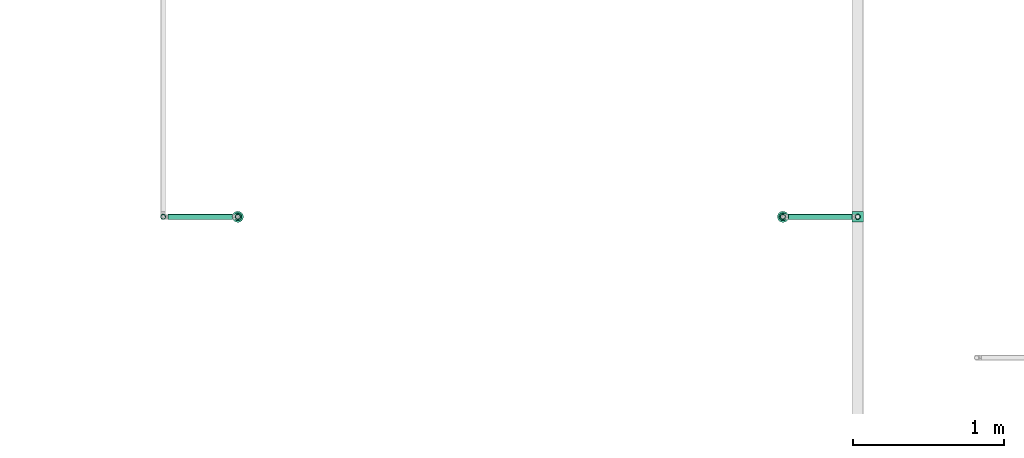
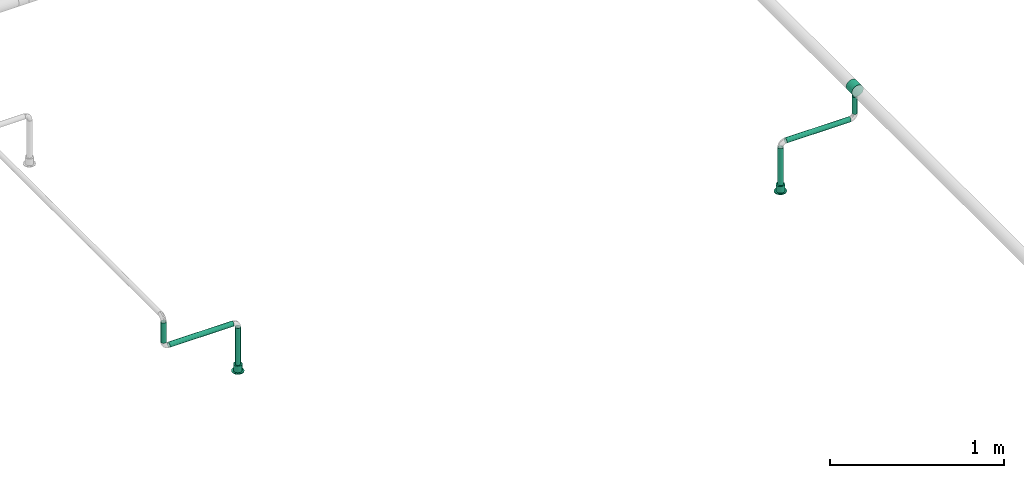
# One storey, part 33 of 95: 6 flow segments, 2 flow terminals, 1 flow fitting.
"""IFC2X3 building model written with IfcOpenShell, lengths in millimetres."""

import ifcopenshell
import ifcopenshell.guid

model = None  # the IFC model being written
_history = None  # IfcOwnerHistory: only IFC2X3 demands one
_inside = {}  # id of a spatial element -> (the spatial element, [elements in it])
_under = {}  # id of a project, library or spatial element -> (it, [spatial elements below it])
_declared = {}  # id of a project -> (the project, [libraries it declares])
_typed = {}  # id of a type object -> (the type object, [elements of that type])
_made_of = {}  # id of a material, layer set ... -> (it, [elements and type objects made of it])


def new_model(schema):
    """Start an empty IFC model of exactly this schema.

    Asked for "IFC4X3", IfcOpenShell would pick the latest addendum, in which some entities
    have other attributes; the version numbers below select the first issue.
    IFC2X3 requires an IfcOwnerHistory on every rooted entity: one is made here for all.
    """
    global model, _history
    if schema == "IFC4X3":
        model = ifcopenshell.file(schema_version=(4, 3, 0, 0))
    else:
        model = ifcopenshell.file(schema=schema)
    _inside.clear()
    _under.clear()
    _declared.clear()
    _typed.clear()
    _made_of.clear()
    _history = None
    if model.schema == "IFC2X3":
        org = make("IfcOrganization", Name="unknown")
        user = make(
            "IfcPersonAndOrganization",
            ThePerson=make("IfcPerson", FamilyName="unknown"),
            TheOrganization=org,
        )
        app = make(
            "IfcApplication",
            ApplicationDeveloper=org,
            Version="unknown",
            ApplicationFullName="unknown",
            ApplicationIdentifier="unknown",
        )
        _history = make(
            "IfcOwnerHistory",
            OwningUser=user,
            OwningApplication=app,
            ChangeAction="ADDED",
            CreationDate=0,
        )
    return model


def make(cls, **values):
    """One entity of the class cls with the attributes given. An attribute that is None is left unset."""
    return model.create_entity(
        cls, **{name: value for name, value in values.items() if value is not None}
    )


def entity(cls, *values):
    """Any entity or typed value of the class cls, its attributes in the order of the schema. None: left unset."""
    e = model.create_entity(cls)
    for i, value in enumerate(values):
        if value is not None:
            e[i] = value
    return e


def rooted(cls, **values):
    """An entity with a GlobalId (a new one), such as an element, a storey or a relation."""
    return make(cls, GlobalId=ifcopenshell.guid.new(), OwnerHistory=_history, **values)


def si_unit(unit_type, name, prefix=None):
    """IfcSIUnit, for example si_unit("LENGTHUNIT", "METRE", prefix="MILLI")."""
    return make("IfcSIUnit", UnitType=unit_type, Prefix=prefix, Name=name)


def converted_unit(unit_type, name, factor, base, dimensions=None, offset=None):
    """IfcConversionBasedUnit, such as the inch: factor (a typed value) times the base unit."""
    return make(
        "IfcConversionBasedUnit"
        if offset is None
        else "IfcConversionBasedUnitWithOffset",
        ConversionOffset=offset,
        Dimensions=None
        if dimensions is None
        else entity("IfcDimensionalExponents", *dimensions),
        UnitType=unit_type,
        Name=name,
        ConversionFactor=make(
            "IfcMeasureWithUnit", ValueComponent=factor, UnitComponent=base
        ),
    )


def derived_unit(unit_type, elements):
    """IfcDerivedUnit: a product of units, each with its exponent."""
    return make(
        "IfcDerivedUnit",
        Elements=[
            make("IfcDerivedUnitElement", Unit=unit, Exponent=power)
            for unit, power in elements
        ],
        UnitType=unit_type,
    )


def assignment(units):
    """IfcUnitAssignment: the units of a project."""
    return None if units is None else make("IfcUnitAssignment", Units=units)


def point(xyz):
    """IfcCartesianPoint."""
    return None if xyz is None else make("IfcCartesianPoint", Coordinates=xyz)


def direction(xyz):
    """IfcDirection."""
    return None if xyz is None else make("IfcDirection", DirectionRatios=xyz)


def frame(location, z_axis=None, x_axis=None):
    """IfcAxis2Placement3D, a coordinate frame: its origin and axes. An axis left out is left unset."""
    return make(
        "IfcAxis2Placement3D",
        Location=point(location),
        Axis=direction(z_axis),
        RefDirection=direction(x_axis),
    )


def frame_2d(location, x_axis=None):
    """IfcAxis2Placement2D, a coordinate frame in the plane: its origin and x axis."""
    return make(
        "IfcAxis2Placement2D", Location=point(location), RefDirection=direction(x_axis)
    )


def origin_with_axes():
    """The frame at (0, 0, 0) with the z axis (0, 0, 1) and the x axis (1, 0, 0) written out."""
    return frame((0.0, 0.0, 0.0), z_axis=(0.0, 0.0, 1.0), x_axis=(1.0, 0.0, 0.0))


def origin_2d_with_axis():
    """The frame at (0, 0) in the plane with the x axis (1, 0) written out."""
    return frame_2d((0.0, 0.0), x_axis=(1.0, 0.0))


def place(relative_to, where):
    """IfcLocalPlacement: puts the frame where relative to a parent placement (None: the world)."""
    return make(
        "IfcLocalPlacement", PlacementRelTo=relative_to, RelativePlacement=where
    )


def context(
    kind, dimensions, precision=None, world=None, true_north=None, identifier=None
):
    """IfcGeometricRepresentationContext, for example the 3D "Model" context."""
    return make(
        "IfcGeometricRepresentationContext",
        ContextIdentifier=identifier,
        ContextType=kind,
        CoordinateSpaceDimension=dimensions,
        Precision=precision,
        WorldCoordinateSystem=world,
        TrueNorth=true_north,
    )


def subcontext(parent, identifier, kind, view, scale=None):
    """IfcGeometricRepresentationSubContext, for example "Body" below "Model"."""
    return make(
        "IfcGeometricRepresentationSubContext",
        ContextIdentifier=identifier,
        ContextType=kind,
        ParentContext=parent,
        TargetScale=scale,
        TargetView=view,
    )


def project(units=None, contexts=None):
    """IfcProject with its units and contexts."""
    return rooted(
        "IfcProject",
        Name="project",
        RepresentationContexts=contexts,
        UnitsInContext=assignment(units),
    )


def spatial(cls, under=None, at=None, **own):
    """A site, building, storey or space (cls), placed at a placement, below another one or the project."""
    s = rooted(cls, ObjectPlacement=at, **own)
    if under is not None:
        _under.setdefault(under.id(), (under, []))[1].append(s)
    return s


def profile(cls, at=None, kind="AREA", **sizes):
    """A parametric profile (cls). Its sizes go by their IFC names, for example OverallWidth=200.0."""
    return make(cls, ProfileType=kind, Position=at, **sizes)


def hollow_circle(**sizes):
    """IfcCircleHollowProfileDef."""
    return profile("IfcCircleHollowProfileDef", **sizes)


def extrude(swept, where, along, depth):
    """IfcExtrudedAreaSolid: the profile swept, set in the frame where, extruded along a direction by depth."""
    return make(
        "IfcExtrudedAreaSolid",
        SweptArea=swept,
        Position=where,
        ExtrudedDirection=direction(along),
        Depth=depth,
    )


def faces_of(points, faces, orient=None, outer=None):
    """IfcFace entities. A face is a list of loops; a loop is a list of indices into points, from 0.

    orient and outer hold one flag for each loop. By default every Orientation is true, the
    first loop of a face is its IfcFaceOuterBound and the others are IfcFaceBound.
    """
    made = []
    for i, loops in enumerate(faces):
        bounds = []
        for j, loop in enumerate(loops):
            is_outer = j == 0 if outer is None else outer[i][j]
            bounds.append(
                make(
                    "IfcFaceOuterBound" if is_outer else "IfcFaceBound",
                    Bound=make("IfcPolyLoop", Polygon=[points[k] for k in loop]),
                    Orientation=True if orient is None else orient[i][j],
                )
            )
        made.append(make("IfcFace", Bounds=bounds))
    return made


def open_shell(faces, orient=None, outer=None):
    """The faces of one IfcOpenShell. surface_model builds it on its shared points."""
    return ("IfcOpenShell", faces, orient, outer)


def surface_model(cls, points, shells):
    """IfcFaceBasedSurfaceModel or IfcShellBasedSurfaceModel (cls): surfaces that need not close."""
    shared = [point(p) for p in points]
    made = [make(c, CfsFaces=faces_of(shared, fs, o, b)) for c, fs, o, b in shells]
    if cls == "IfcFaceBasedSurfaceModel":
        return make(cls, FbsmFaces=made)
    return make(cls, SbsmBoundary=made)


def shape(context_of_items, identifier, shape_type, items):
    """IfcShapeRepresentation: the items that make up one representation, for example the "Body"."""
    return make(
        "IfcShapeRepresentation",
        ContextOfItems=context_of_items,
        RepresentationIdentifier=identifier,
        RepresentationType=shape_type,
        Items=items,
    )


def source(mapping_origin, context_of_items, identifier, shape_type, items):
    """IfcRepresentationMap: a shape defined once, which mapped items show again and again."""
    return make(
        "IfcRepresentationMap",
        MappingOrigin=mapping_origin,
        MappedRepresentation=shape(context_of_items, identifier, shape_type, items),
    )


def transform(
    local_origin,
    x_axis=None,
    y_axis=None,
    z_axis=None,
    scale=None,
    scale2=None,
    scale3=None,
    uniform=True,
):
    """IfcCartesianTransformationOperator3D, or its non-uniform kind. x_axis, y_axis, z_axis: its Axis1, 2, 3."""
    if uniform:
        return make(
            "IfcCartesianTransformationOperator3D",
            Axis1=direction(x_axis),
            Axis2=direction(y_axis),
            LocalOrigin=point(local_origin),
            Scale=scale,
            Axis3=direction(z_axis),
        )
    return make(
        "IfcCartesianTransformationOperator3DnonUniform",
        Axis1=direction(x_axis),
        Axis2=direction(y_axis),
        LocalOrigin=point(local_origin),
        Scale=scale,
        Axis3=direction(z_axis),
        Scale2=scale2,
        Scale3=scale3,
    )


def mapped(mapping_source, mapping_target):
    """IfcMappedItem: shows the shape of a source again, moved by a transform."""
    return make(
        "IfcMappedItem", MappingSource=mapping_source, MappingTarget=mapping_target
    )


def made_of(thing, what):
    """Note that an element or type object is made of a material, layer set ...; save() writes the relation."""
    if what is not None:
        _made_of.setdefault(what.id(), (what, []))[1].append(thing)
    return thing


def type_object(cls, material=None, **own):
    """A type object (cls), such as IfcWallType, which elements share."""
    return made_of(rooted(cls, **own), material)


def element(
    cls,
    number,
    at=None,
    inside=None,
    cuts=None,
    type_object=None,
    material=None,
    context=None,
    identifier="Body",
    shape_type=None,
    held_by="IfcProductDefinitionShape",
    body=None,
    shapes=None,
    **own,
):
    """One element of the class cls, such as IfcWall. Its Tag is "e" and its number.

    at: its placement. inside: the storey or other place that contains it. cuts: it is an
    opening in that element (IfcRelVoidsElement). A single representation is given by context,
    identifier, shape_type and body (its items); several are given by shapes. held_by: the class
    of the entity that holds the representations. save() writes the other relations.
    """
    e = rooted(cls, Tag="e%d" % number, ObjectPlacement=at, **own)
    if body is not None:
        shapes = [shape(context, identifier, shape_type, body)]
    if shapes is not None:
        e.Representation = make(held_by, Representations=shapes)
    if inside is not None:
        _inside.setdefault(inside.id(), (inside, []))[1].append(e)
    if cuts is not None:
        rooted(
            "IfcRelVoidsElement", RelatingBuildingElement=cuts, RelatedOpeningElement=e
        )
    if type_object is not None:
        _typed.setdefault(type_object.id(), (type_object, []))[1].append(e)
    return made_of(e, material)


def aggregate(whole, parts):
    """IfcRelAggregates: a whole, such as a stair, and the parts it consists of."""
    return rooted("IfcRelAggregates", RelatingObject=whole, RelatedObjects=parts)


def save(model, path):
    """Write the relations noted so far, then the file.

    IfcRelAggregates (storeys below a building ...), IfcRelContainedInSpatialStructure (elements
    in a storey), IfcRelDefinesByType, IfcRelAssociatesMaterial and IfcRelDeclares: one each for
    every whole, place, type object, material and project.
    """
    for whole, parts in _under.values():
        aggregate(whole, parts)
    for where, things in _inside.values():
        rooted(
            "IfcRelContainedInSpatialStructure",
            RelatedElements=things,
            RelatingStructure=where,
        )
    for kind, things in _typed.values():
        rooted("IfcRelDefinesByType", RelatedObjects=things, RelatingType=kind)
    for what, things in _made_of.values():
        rooted("IfcRelAssociatesMaterial", RelatedObjects=things, RelatingMaterial=what)
    for by, libraries in _declared.values():
        rooted("IfcRelDeclares", RelatingContext=by, RelatedDefinitions=libraries)
    model.write(path)


model = new_model("IFC2X3")

# Units and contexts
model_context = context("Model", 3, precision=0.01, world=frame((0.0, 4.29681676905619e-09, 0.0)), true_north=direction((4.01073788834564e-13, 1.0)))
plan_context = context("Plan", 3, precision=0.01, world=frame((0.0, 4.29681676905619e-09, 0.0)), true_north=direction((4.01073788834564e-13, 1.0)))
body_context = subcontext(model_context, "Body", "Model", "MODEL_VIEW")
ifc_project = project(units=[converted_unit("PLANEANGLEUNIT", "DEGREE", entity("IfcPositiveLengthMeasure", 0.0174532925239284), si_unit("PLANEANGLEUNIT", "RADIAN"), dimensions=[0, 0, 0, 0, 0, 0, 0]), si_unit("AREAUNIT", "SQUARE_METRE"), si_unit("LENGTHUNIT", "METRE", prefix="MILLI"), si_unit("MASSUNIT", "GRAM", prefix="KILO"), si_unit("POWERUNIT", "WATT"), si_unit("PRESSUREUNIT", "PASCAL"), si_unit("FORCEUNIT", "NEWTON", prefix="KILO"), si_unit("ELECTRICVOLTAGEUNIT", "VOLT"), si_unit("ELECTRICCURRENTUNIT", "AMPERE"), si_unit("THERMODYNAMICTEMPERATUREUNIT", "DEGREE_CELSIUS"), si_unit("TIMEUNIT", "SECOND"), si_unit("VOLUMEUNIT", "CUBIC_METRE"), derived_unit("LINEARVELOCITYUNIT", [(si_unit("LENGTHUNIT", "METRE"), 1), (si_unit("TIMEUNIT", "SECOND"), -1)]), derived_unit("VOLUMETRICFLOWRATEUNIT", [(si_unit("VOLUMEUNIT", "CUBIC_METRE"), 1), (si_unit("TIMEUNIT", "SECOND"), -1)]), derived_unit("THERMALTRANSMITTANCEUNIT", [(si_unit("POWERUNIT", "WATT"), 1), (si_unit("THERMODYNAMICTEMPERATUREUNIT", "KELVIN"), -1), (si_unit("AREAUNIT", "SQUARE_METRE"), -1)]), derived_unit("SOUNDPRESSUREUNIT", [(si_unit("PRESSUREUNIT", "PASCAL"), 1)])], contexts=[model_context, plan_context])

# Site, building, storey
site_placement = place(None, frame((0.0, -4.29681676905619e-09, 0.0), z_axis=(0.0, 0.0, 1.0), x_axis=(1.0, 0.0, 0.0)))
site = spatial("IfcSite", under=ifc_project, at=site_placement, CompositionType="ELEMENT")
building_placement = place(site_placement, frame((0.0, 4.29681676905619e-09, 0.0), z_axis=(0.0, 0.0, 1.0), x_axis=(1.0, 0.0, 0.0)))
building = spatial("IfcBuilding", under=site, at=building_placement, Name="mc-building", CompositionType="ELEMENT")
storey_placement = place(building_placement, frame((0.0, 0.0, 210900.0), z_axis=(0.0, 0.0, 1.0), x_axis=(1.0, 0.0, 0.0)))
storey = spatial("IfcBuildingStorey", under=building, at=storey_placement, Name="Nivå F", CompositionType="ELEMENT", Elevation=210900.0)

# Flow fitting
pipe_fitting_type = type_object("IfcPipeFittingType", Name="magi_pipe_fe_tee_centric_90_NOR", PredefinedType="JUNCTION")
shared_shape_1 = source(origin_with_axes(), body_context, "Body", "SurfaceModel", [
    surface_model("IfcShellBasedSurfaceModel", [(-33.8, 9.86101, -36.80177), (-33.8, 0.0, -38.1), (-33.8, 36.80177, -9.86101), (-33.8, 19.05, -32.99557), (-33.8, 32.99557, -19.05), (-33.8, 26.94077, -26.94077), (-33.8, -38.1, 0.0), (-33.8, -19.05, -32.99557), (-33.8, -26.94077, -26.94077), (-33.8, -9.86101, -36.80177), (-33.8, -32.99557, -19.05), (-33.8, -36.80177, -9.86101), (-33.8, 38.1, 0.0), (-33.8, 32.99557, 19.05), (-33.8, 36.80177, 9.86101), (-33.8, -36.80177, 9.86101), (-33.8, 19.05, 32.99557), (-33.8, 26.94077, 26.94077), (-33.8, 9.86101, 36.80177), (-33.8, 0.0, 38.1), (-33.8, -26.94077, 26.94077), (-33.8, -32.99557, 19.05), (-33.8, -9.86101, 36.80177), (-33.8, -19.05, 32.99557), (33.8, 0.0, -38.1), (33.8, 9.86101, -36.80177), (33.8, 19.05, -32.99557), (33.8, 26.94077, -26.94077), (33.8, 32.99557, -19.05), (33.8, 36.80177, -9.86101), (33.8, -38.1, 0.0), (33.8, -9.86101, -36.80177), (33.8, -26.94077, -26.94077), (33.8, -19.05, -32.99557), (33.8, -32.99557, -19.05), (33.8, -36.80177, -9.86101), (33.8, 36.80177, 9.86101), (33.8, 32.99557, 19.05), (33.8, 19.05, 32.99557), (33.8, 0.0, 38.1), (33.8, 26.94077, 26.94077), (33.8, 9.86101, 36.80177), (33.8, -26.94077, 26.94077), (33.8, -32.99557, 19.05), (33.8, -36.80177, 9.86101), (33.8, -19.05, 32.99557), (33.8, -9.86101, 36.80177), (33.8, 38.1, 0.0), (33.8, -37.45089, 4.9305), (15.86072, -37.65053, 5.83504), (16.9, -38.1, 0.0), (12.92726, -36.51183, 10.88559), (2.96752, -34.27545, 16.63742), (33.8, -34.89867, 14.4555), (8.48894, -35.18611, 14.61328), (-8.4904, -35.18646, 14.61243), (-33.8, -34.89867, 14.4555), (-15.8612, -37.65073, 5.83372), (-33.8, -37.45089, 4.9305), (-16.9, -38.1, 0.0), (-12.9317, -36.51341, 10.88031), (-2.97221, -34.27585, 16.63658), (-33.8, -37.45089, -4.9305), (-15.8612, -37.65073, -5.83372), (15.86072, -37.65053, -5.83504), (33.8, -37.45089, -4.9305), (-12.9317, -36.51341, -10.88031), (-33.8, -34.89867, -14.4555), (-8.4904, -35.18646, -14.61243), (2.96752, -34.27545, -16.63742), (8.48894, -35.18611, -14.61328), (33.8, -34.89867, -14.4555), (12.92726, -36.51183, -10.88559), (-2.97221, -34.27585, -16.63658), (4.37404, -57.15, -16.32415), (-16.9, -57.15, 0.0), (0.0, -57.15, -16.9), (14.63583, -57.15, -8.45), (8.45, -57.15, -14.63583), (16.32415, -57.15, -4.37404), (11.9501, -57.15, -11.9501), (-11.9501, -57.15, -11.9501), (-8.45, -57.15, -14.63583), (-4.37404, -57.15, -16.32415), (-14.63583, -57.15, -8.45), (-16.32415, -57.15, -4.37404), (16.9, -57.15, 0.0), (8.45, -57.15, 14.63583), (16.32415, -57.15, 4.37404), (14.63583, -57.15, 8.45), (-8.45, -57.15, 14.63583), (11.9501, -57.15, 11.9501), (4.37404, -57.15, 16.32415), (-16.32415, -57.15, 4.37404), (-11.9501, -57.15, 11.9501), (-14.63583, -57.15, 8.45), (0.0, -57.15, 16.9), (-4.37404, -57.15, 16.32415), (-16.3806, -37.87537, 2.91686), (-5.7313, -34.73116, 15.62451), (-0.00235, -34.27565, 16.637), (5.72823, -34.73078, 15.62535), (16.38036, -37.87526, 2.91752), (16.38036, -37.87526, -2.91752), (5.72823, -34.73078, -15.62535), (-0.00235, -34.27565, -16.637), (-5.7313, -34.73116, -15.62451), (-16.3806, -37.87537, -2.91686)], [open_shell([[[0, 1, 2]], [[3, 0, 2]], [[2, 4, 5]], [[3, 2, 5]], [[6, 2, 1]], [[7, 8, 9]], [[8, 1, 9]], [[10, 11, 8]], [[6, 8, 11]], [[8, 6, 1]], [[6, 12, 2]], [[13, 14, 12]], [[15, 13, 6]], [[16, 13, 15]], [[17, 13, 16]], [[18, 16, 19]], [[20, 19, 21]], [[16, 15, 21]], [[22, 19, 23]], [[20, 23, 19]], [[21, 19, 16]], [[12, 6, 13]], [[24, 25, 26]], [[24, 26, 27]], [[27, 28, 29]], [[24, 27, 30]], [[30, 27, 29]], [[31, 32, 33]], [[31, 24, 32]], [[34, 30, 35]], [[30, 34, 32]], [[24, 30, 32]], [[29, 36, 30]], [[36, 37, 30]], [[30, 37, 38]], [[38, 39, 30]], [[38, 37, 40]], [[39, 38, 41]], [[30, 42, 43]], [[44, 30, 43]], [[45, 39, 46]], [[45, 42, 30]], [[30, 39, 45]], [[36, 29, 47]], [[48, 44, 49]], [[50, 30, 48]], [[44, 51, 49]], [[43, 42, 52]], [[50, 48, 49]], [[44, 53, 51]], [[52, 54, 43]], [[42, 20, 52]], [[54, 53, 43]], [[55, 21, 56]], [[57, 58, 59]], [[6, 59, 58]], [[57, 60, 15]], [[55, 61, 21]], [[51, 53, 54]], [[15, 60, 56]], [[21, 61, 20]], [[56, 60, 55]], [[61, 52, 20]], [[57, 15, 58]], [[42, 23, 20]], [[19, 46, 39]], [[22, 45, 46]], [[18, 39, 41]], [[37, 36, 14]], [[17, 38, 40]], [[13, 40, 37]], [[41, 38, 16]], [[12, 36, 47]], [[23, 45, 22]], [[22, 46, 19]], [[18, 19, 39]], [[41, 16, 18]], [[16, 38, 17]], [[13, 17, 40]], [[14, 13, 37]], [[36, 12, 14]], [[45, 23, 42]], [[12, 47, 29]], [[29, 28, 2]], [[59, 62, 63]], [[27, 4, 28]], [[9, 24, 31]], [[0, 26, 25]], [[64, 35, 65]], [[24, 1, 25]], [[31, 33, 7]], [[27, 26, 5]], [[66, 67, 68]], [[4, 2, 28]], [[12, 29, 2]], [[27, 5, 4]], [[3, 26, 0]], [[26, 3, 5]], [[0, 25, 1]], [[9, 1, 24]], [[31, 7, 9]], [[33, 8, 7]], [[32, 34, 69]], [[70, 34, 71]], [[70, 69, 34]], [[35, 72, 71]], [[32, 69, 8]], [[30, 50, 65]], [[64, 72, 35]], [[64, 65, 50]], [[72, 70, 71]], [[73, 68, 10]], [[10, 8, 73]], [[68, 67, 10]], [[73, 8, 69]], [[66, 63, 11]], [[63, 62, 11]], [[62, 59, 6]], [[11, 67, 66]], [[32, 8, 33]], [[74, 75, 76]], [[77, 74, 78]], [[77, 79, 74]], [[77, 78, 80]], [[75, 74, 79]], [[76, 81, 82]], [[82, 83, 76]], [[84, 75, 85]], [[81, 76, 84]], [[75, 84, 76]], [[79, 86, 75]], [[87, 86, 88]], [[87, 88, 89]], [[90, 75, 87]], [[87, 89, 91]], [[90, 87, 92]], [[93, 94, 95]], [[94, 93, 90]], [[90, 96, 97]], [[93, 75, 90]], [[92, 96, 90]], [[87, 75, 86]], [[93, 98, 75]], [[60, 95, 94]], [[93, 95, 57]], [[94, 90, 55]], [[98, 59, 75]], [[57, 95, 60]], [[97, 61, 99]], [[55, 60, 94]], [[96, 52, 100]], [[87, 101, 92]], [[99, 90, 97]], [[99, 55, 90]], [[93, 57, 98]], [[92, 52, 96]], [[49, 89, 88]], [[102, 86, 50]], [[102, 49, 88]], [[91, 89, 51]], [[96, 61, 97]], [[101, 52, 92]], [[87, 54, 101]], [[87, 91, 54]], [[54, 91, 51]], [[51, 89, 49]], [[86, 102, 88]], [[100, 61, 96]], [[79, 103, 86]], [[72, 77, 80]], [[79, 77, 64]], [[80, 78, 70]], [[103, 50, 86]], [[64, 77, 72]], [[74, 69, 104]], [[70, 72, 80]], [[76, 73, 105]], [[82, 106, 83]], [[107, 75, 59]], [[104, 78, 74]], [[104, 70, 78]], [[68, 82, 81]], [[79, 64, 103]], [[63, 84, 85]], [[107, 63, 85]], [[84, 66, 81]], [[76, 69, 74]], [[83, 106, 73]], [[73, 76, 83]], [[68, 106, 82]], [[68, 81, 66]], [[66, 84, 63]], [[75, 107, 85]], [[105, 69, 76]]])]),
])
flow_fitting_placement = place(storey_placement, frame((534602.7875, 458598.02191, 4310.0), z_axis=(-1.0, 0.0, 0.0), x_axis=(0.0, -1.0, 0.0)))
element("IfcFlowFitting", 1, at=flow_fitting_placement, inside=storey, type_object=pipe_fitting_type, Name="magi_pipe_fe_tee_centric_90_NOR", context=body_context, shape_type="MappedRepresentation", body=[
    mapped(shared_shape_1, transform((0.0, 0.0, 0.0), scale=1.0)),
])

# Flow segments
pipe_segment_type = type_object("IfcPipeSegmentType", Name="Stålrør normaltykke", PredefinedType="RIGIDSEGMENT")
shared_shape_2 = source(origin_with_axes(), body_context, "Body", "SweptSolid", [
    extrude(hollow_circle(Radius=16.9, WallThickness=2.0, at=origin_2d_with_axis()), frame((0.0, 0.0, 0.0), z_axis=(1.0, 0.0, 0.0), x_axis=(0.0, 1.0, 0.0)), (0.0, 0.0, 1.0), 427.2),
])
for number, where, z_axis, x_axis in (
    (2, (530036.56487, 458598.02191, 4100.0), (0.0, 0.0, 1.0), (1.0, 0.0, 0.0)),
    (3, (534568.9875, 458598.02191, 4100.0), (0.0, 0.0, 1.0), (-1.0, 0.0, 0.0)),
):
    element("IfcFlowSegment", number, at=place(storey_placement, frame(where, z_axis=z_axis, x_axis=x_axis)), inside=storey, type_object=pipe_segment_type, Name="Stålrør normaltykke", context=body_context, shape_type="MappedRepresentation", body=[
        mapped(shared_shape_2, transform((0.0, 0.0, 0.0), scale=1.0)),
    ])
shared_shape_3 = source(origin_with_axes(), body_context, "Body", "SweptSolid", [
    extrude(hollow_circle(Radius=16.9, WallThickness=2.0, at=origin_2d_with_axis()), frame((0.0, 0.0, 0.0), z_axis=(1.0, 0.0, 0.0), x_axis=(0.0, 1.0, 0.0)), (0.0, 0.0, 1.0), 296.9),
])
for number, where, z_axis, x_axis in (
    (4, (530497.57166, 458598.02191, 4066.20000000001), (0.0, -1.0, 0.0), (0.0, 0.0, -1.0)),
    (5, (534107.98071, 458598.02191, 4066.20000000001), (0.0, -1.0, 0.0), (0.0, 0.0, -1.0)),
):
    element("IfcFlowSegment", number, at=place(storey_placement, frame(where, z_axis=z_axis, x_axis=x_axis)), inside=storey, type_object=pipe_segment_type, Name="Stålrør normaltykke", context=body_context, shape_type="MappedRepresentation", body=[
        mapped(shared_shape_3, transform((0.0, 0.0, 0.0), scale=1.0)),
    ])
shared_shape_4 = source(origin_with_axes(), body_context, "Body", "SweptSolid", [
    extrude(hollow_circle(Radius=16.9, WallThickness=2.0, at=origin_2d_with_axis()), frame((0.0, 0.0, 0.0), z_axis=(1.0, 0.0, 0.0), x_axis=(0.0, 1.0, 0.0)), (0.0, 0.0, 1.0), 142.4),
])
flow_segment_1_placement = place(storey_placement, frame((530002.76487, 458598.02191, 4276.20000000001), z_axis=(1.0, 0.0, 0.0), x_axis=(0.0, 0.0, -1.0)))
element("IfcFlowSegment", 6, at=flow_segment_1_placement, inside=storey, type_object=pipe_segment_type, Name="Stålrør normaltykke", context=body_context, shape_type="MappedRepresentation", body=[
    mapped(shared_shape_4, transform((0.0, 0.0, 0.0), scale=1.0)),
])
shared_shape_5 = source(origin_with_axes(), body_context, "Body", "SweptSolid", [
    extrude(hollow_circle(Radius=16.9, WallThickness=2.0, at=origin_2d_with_axis()), frame((0.0, 0.0, 0.0), z_axis=(1.0, 0.0, 0.0), x_axis=(0.0, 1.0, 0.0)), (0.0, 0.0, 1.0), 119.0),
])
flow_segment_2_placement = place(storey_placement, frame((534602.7875, 458598.02191, 4252.85000000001), z_axis=(-1.0, 0.0, 0.0), x_axis=(0.0, 0.0, -1.0)))
element("IfcFlowSegment", 7, at=flow_segment_2_placement, inside=storey, type_object=pipe_segment_type, Name="Stålrør normaltykke", context=body_context, shape_type="MappedRepresentation", body=[
    mapped(shared_shape_5, transform((0.0, 0.0, 0.0), scale=1.0)),
])

# Flow terminals
fire_suppression_terminal_type = type_object("IfcFireSuppressionTerminalType", Name="68DGR-STD-SKJULT I HIMLING", PredefinedType="NOTDEFINED")
shared_shape_6 = source(origin_with_axes(), body_context, "Body", "SurfaceModel", [
    surface_model("IfcShellBasedSurfaceModel", [(-26.0, 0.0, -46.0), (-25.11407, -6.72929, -46.0), (-25.11407, -6.72929, 0.0), (6.72929, -25.11407, 0.0), (6.72929, -25.11407, -46.0), (13.0, -22.51666, -46.0), (22.51666, -13.0, -46.0), (22.51666, -13.0, 0.0), (18.38478, -18.38478, 0.0), (25.11407, -6.72929, 0.0), (25.11407, -6.72929, -46.0), (26.0, 0.0, -46.0), (26.0, 0.0, 0.0), (25.11407, 6.72929, -46.0), (22.51666, 13.0, 0.0), (25.11407, 6.72929, 0.0), (13.0, 22.51666, -46.0), (6.72929, 25.11407, -46.0), (6.72929, 25.11407, 0.0), (18.38478, 18.38478, 0.0), (22.51666, 13.0, -46.0), (-25.11407, 6.72929, 0.0), (-25.11407, 6.72929, -46.0), (-26.16295, -26.16295, 5.0), (35.73926, -9.57631, 5.0), (37.0, 0.0, 5.0), (13.0, 22.51666, 0.0), (-26.0, 0.0, 0.0), (-13.0, 22.51666, 0.0), (-6.72929, 25.11407, 0.0), (0.0, 26.0, 0.0), (-22.51666, 13.0, 0.0), (-18.38478, 18.38478, 0.0), (13.0, -22.51666, 0.0), (0.0, -26.0, 0.0), (-22.51666, -13.0, 0.0), (-18.38478, -18.38478, 0.0), (-13.0, -22.51666, 0.0), (-6.72929, -25.11407, 0.0), (0.0, -26.0, -46.0), (18.38478, -18.38478, -46.0), (-18.38478, -18.38478, -46.0), (-13.0, -22.51666, -46.0), (-6.72929, -25.11407, -46.0), (-22.51666, -13.0, -46.0), (18.38478, 18.38478, -46.0), (-22.51666, 13.0, -46.0), (-18.38478, 18.38478, -46.0), (-13.0, 22.51666, -46.0), (-6.72929, 25.11407, -46.0), (0.0, 26.0, -46.0), (18.5, 32.04294, 5.0), (9.57631, 35.73926, 5.0), (35.73926, 9.57631, 5.0), (26.16295, 26.16295, 5.0), (32.04294, 18.5, 5.0), (-35.73926, -9.57631, 5.0), (-18.5, 32.04294, 5.0), (-9.57631, 35.73926, 5.0), (0.0, 37.0, 5.0), (-32.04294, 18.5, 5.0), (-35.73926, 9.57631, 5.0), (-26.16295, 26.16295, 5.0), (-37.0, 0.0, 5.0), (32.04294, -18.5, 5.0), (0.0, -37.0, 5.0), (26.16295, -26.16295, 5.0), (18.5, -32.04294, 5.0), (9.57631, -35.73926, 5.0), (-9.57631, -35.73926, 5.0), (-32.04294, -18.5, 5.0), (-18.5, -32.04294, 5.0), (18.5, -32.04294, 0.0), (9.57631, -35.73926, 0.0), (0.0, -37.0, 0.0), (32.04294, -18.5, 0.0), (-26.16295, -26.16295, 0.0), (26.16295, -26.16295, 0.0), (-35.73926, 9.57631, 0.0), (-18.5, -32.04294, 0.0), (-9.57631, -35.73926, 0.0), (-32.04294, -18.5, 0.0), (-35.73926, -9.57631, 0.0), (-37.0, 0.0, 0.0), (35.73926, -9.57631, 0.0), (35.73926, 9.57631, 0.0), (32.04294, 18.5, 0.0), (18.5, 32.04294, 0.0), (9.57631, 35.73926, 0.0), (26.16295, 26.16295, 0.0), (-32.04294, 18.5, 0.0), (-26.16295, 26.16295, 0.0), (-9.57631, 35.73926, 0.0), (0.0, 37.0, 0.0), (-18.5, 32.04294, 0.0), (37.0, 0.0, 0.0)], [open_shell([[[0, 1, 2]], [[3, 4, 5]], [[6, 7, 8]], [[9, 7, 10]], [[11, 12, 9]], [[13, 14, 15]], [[15, 12, 11]], [[16, 17, 18]], [[19, 14, 20]], [[21, 22, 0]], [[23, 24, 25]], [[19, 26, 18]], [[19, 18, 21]], [[27, 15, 19]], [[14, 19, 15]], [[19, 21, 27]], [[28, 21, 29]], [[18, 30, 29]], [[31, 21, 32]], [[28, 32, 21]], [[29, 21, 18]], [[12, 15, 27]], [[8, 7, 9]], [[33, 8, 9]], [[34, 3, 33]], [[9, 34, 33]], [[27, 34, 9]], [[2, 35, 27]], [[36, 27, 35]], [[37, 38, 36]], [[34, 27, 36]], [[36, 38, 34]], [[12, 27, 9]], [[5, 4, 39]], [[5, 39, 22]], [[10, 6, 40]], [[5, 10, 40]], [[39, 41, 22]], [[42, 41, 43]], [[41, 39, 43]], [[1, 0, 44]], [[44, 0, 22]], [[22, 41, 44]], [[10, 5, 22]], [[45, 13, 10]], [[20, 13, 45]], [[17, 16, 45]], [[10, 22, 45]], [[45, 22, 17]], [[46, 47, 22]], [[48, 22, 47]], [[48, 49, 22]], [[49, 17, 22]], [[49, 50, 17]], [[11, 10, 13]], [[46, 22, 21]], [[46, 31, 47]], [[49, 48, 28]], [[32, 48, 47]], [[50, 49, 29]], [[21, 0, 27]], [[21, 31, 46]], [[31, 32, 47]], [[48, 32, 28]], [[28, 29, 49]], [[29, 30, 50]], [[16, 26, 45]], [[13, 20, 14]], [[19, 20, 45]], [[11, 13, 15]], [[30, 18, 17]], [[18, 26, 16]], [[26, 19, 45]], [[50, 30, 17]], [[11, 9, 10]], [[10, 7, 6]], [[3, 39, 4]], [[6, 8, 40]], [[3, 5, 33]], [[8, 33, 5]], [[5, 40, 8]], [[3, 34, 39]], [[42, 43, 38]], [[42, 37, 41]], [[1, 44, 35]], [[36, 44, 41]], [[34, 38, 43]], [[38, 37, 42]], [[37, 36, 41]], [[36, 35, 44]], [[1, 35, 2]], [[2, 27, 0]], [[39, 34, 43]], [[51, 52, 53]], [[54, 51, 55]], [[56, 52, 57]], [[55, 51, 53]], [[52, 56, 53]], [[58, 57, 59]], [[57, 52, 59]], [[60, 61, 62]], [[57, 62, 63]], [[62, 61, 63]], [[53, 23, 25]], [[64, 24, 65]], [[66, 64, 67]], [[65, 68, 67]], [[64, 65, 67]], [[69, 65, 24]], [[70, 23, 56]], [[56, 57, 63]], [[71, 69, 23]], [[23, 53, 56]], [[24, 23, 69]], [[72, 73, 74]], [[75, 72, 74]], [[76, 75, 74]], [[77, 72, 75]], [[75, 76, 78]], [[79, 76, 80]], [[76, 74, 80]], [[81, 82, 76]], [[82, 78, 76]], [[83, 78, 82]], [[75, 78, 84]], [[85, 84, 78]], [[86, 85, 87]], [[85, 88, 87]], [[89, 86, 87]], [[88, 85, 78]], [[90, 91, 78]], [[91, 88, 78]], [[92, 93, 94]], [[88, 91, 94]], [[88, 94, 93]], [[95, 84, 85]], [[83, 61, 78]], [[78, 60, 90]], [[94, 91, 57]], [[62, 91, 90]], [[92, 94, 58]], [[61, 60, 78]], [[83, 63, 61]], [[94, 57, 58]], [[57, 91, 62]], [[90, 60, 62]], [[92, 58, 59]], [[59, 93, 92]], [[93, 52, 88]], [[88, 51, 87]], [[86, 89, 55]], [[54, 89, 87]], [[85, 86, 53]], [[51, 54, 87]], [[88, 52, 51]], [[85, 53, 25]], [[53, 86, 55]], [[89, 54, 55]], [[85, 25, 95]], [[59, 52, 93]], [[95, 24, 84]], [[84, 64, 75]], [[72, 77, 67]], [[66, 77, 75]], [[73, 72, 68]], [[24, 64, 84]], [[95, 25, 24]], [[72, 67, 68]], [[67, 77, 66]], [[75, 64, 66]], [[73, 68, 65]], [[65, 74, 73]], [[74, 69, 80]], [[80, 71, 79]], [[81, 76, 70]], [[23, 76, 79]], [[82, 81, 56]], [[71, 23, 79]], [[80, 69, 71]], [[82, 56, 63]], [[56, 81, 70]], [[76, 23, 70]], [[82, 63, 83]], [[65, 69, 74]]])]),
])
for number, where, z_axis, x_axis, name in (
    (8, (530497.57166, 458598.02191, 3759.89999999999), (0.0, 0.0, -1.0), (1.0, 0.0, 0.0), "68DGR-STD-SKJULT I HIMLING"),
    (9, (534107.98071, 458598.02191, 3759.89999999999), (0.0, 0.0, -1.0), (1.0, 0.0, 0.0), "68DGR-STD-SKJULT I HIMLING"),
):
    element("IfcFlowTerminal", number, at=place(storey_placement, frame(where, z_axis=z_axis, x_axis=x_axis)), inside=storey, type_object=fire_suppression_terminal_type, Name=name, context=body_context, shape_type="MappedRepresentation", body=[
        mapped(shared_shape_6, transform((0.0, 0.0, 0.0), scale=1.0)),
    ])

save(model, "model.ifc")
